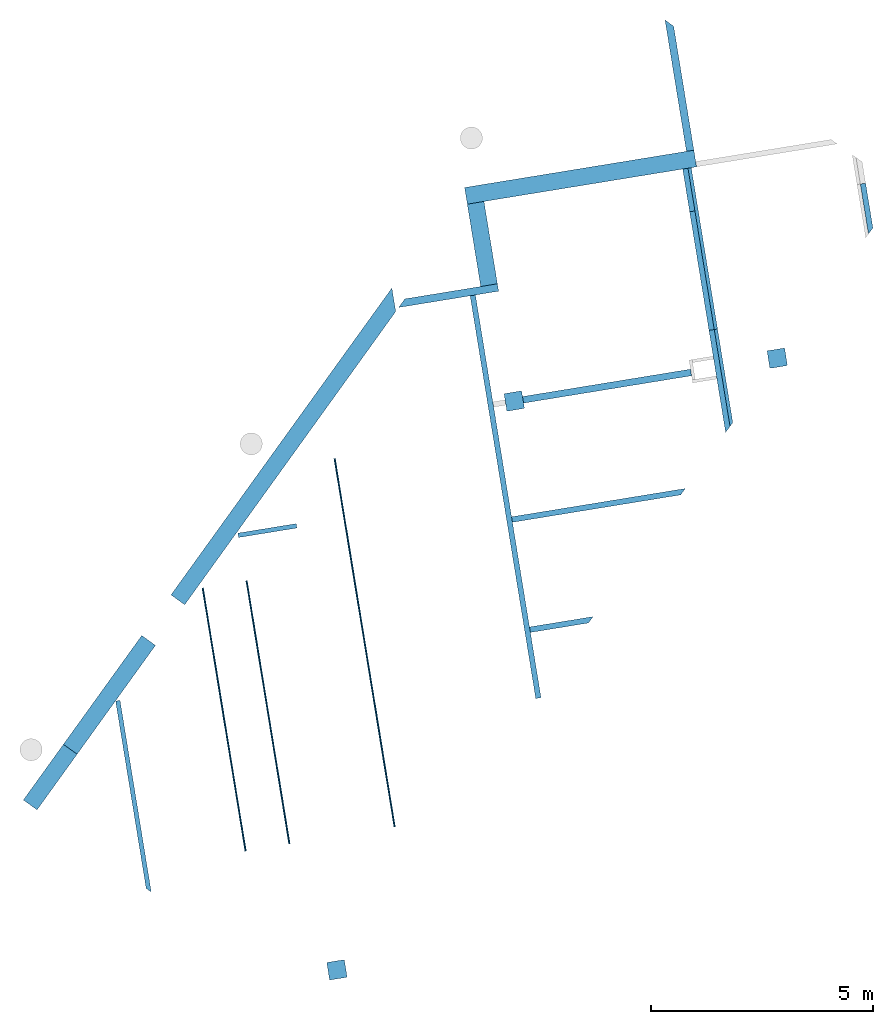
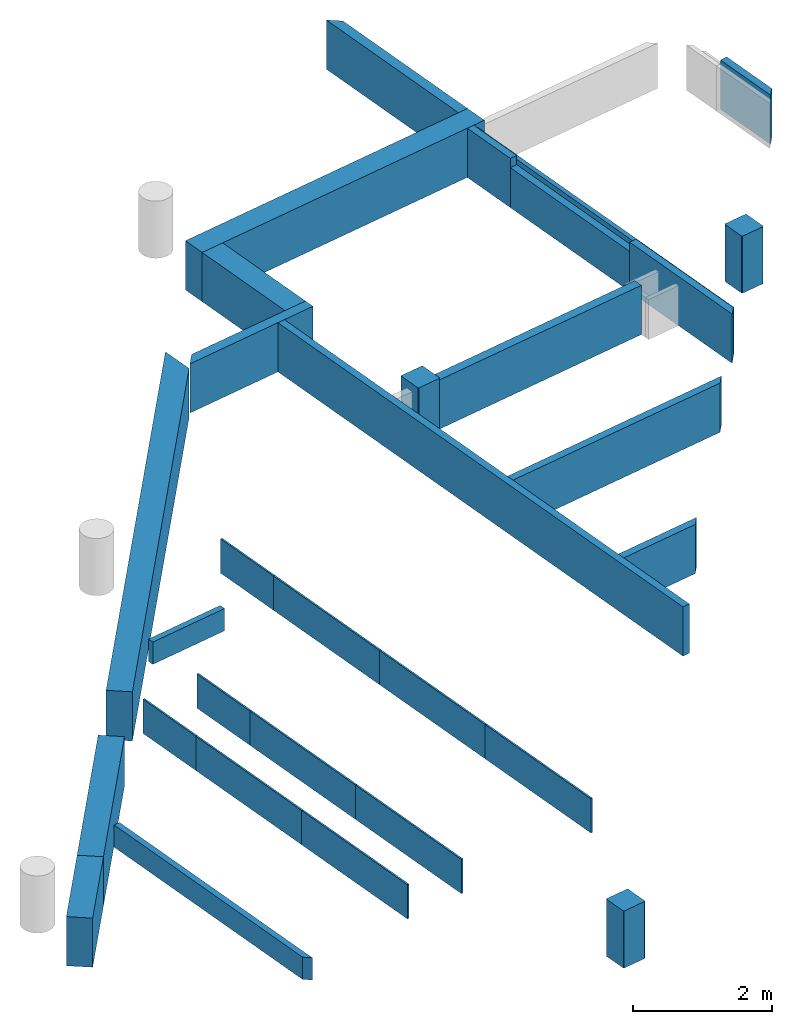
# One storey, part 1 of 2: 29 walls, 3 columns.
"""IFC2X3 building model written with IfcOpenShell, lengths in millimetres."""

from ifc_helpers import new_model, entity, si_unit, converted_unit, derived_unit, direction, frame, frame_2d, origin, origin_with_axes, place, context, subcontext, project, spatial, rectangle, extrude, faceted_brep, material, layer, layer_set, layer_usage, type_object, element, save


model = new_model("IFC2X3")

# Units and contexts
model_context = context("Model", 3, precision=0.01, world=origin(), true_north=direction((6.12323399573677e-17, 1.0)))
plan_context = context("Plan", 3, precision=1e-05, world=origin_with_axes())
body_context = subcontext(model_context, "Body", "Model", "MODEL_VIEW")
ifc_project = project(units=[converted_unit("PLANEANGLEUNIT", "DEGREE", entity("IfcPositiveLengthMeasure", 0.0174532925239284), si_unit("PLANEANGLEUNIT", "RADIAN"), dimensions=[0, 0, 0, 0, 0, 0, 0]), si_unit("AREAUNIT", "SQUARE_METRE"), si_unit("LENGTHUNIT", "METRE", prefix="MILLI"), si_unit("MASSUNIT", "GRAM", prefix="KILO"), si_unit("POWERUNIT", "WATT"), si_unit("PRESSUREUNIT", "PASCAL", prefix="KILO"), si_unit("FORCEUNIT", "NEWTON", prefix="KILO"), si_unit("ELECTRICVOLTAGEUNIT", "VOLT"), si_unit("ELECTRICCURRENTUNIT", "AMPERE"), si_unit("THERMODYNAMICTEMPERATUREUNIT", "DEGREE_CELSIUS"), si_unit("TIMEUNIT", "SECOND"), si_unit("VOLUMEUNIT", "CUBIC_METRE"), derived_unit("LINEARVELOCITYUNIT", [(si_unit("LENGTHUNIT", "METRE"), 1), (si_unit("TIMEUNIT", "SECOND"), -1)]), derived_unit("VOLUMETRICFLOWRATEUNIT", [(si_unit("VOLUMEUNIT", "CUBIC_METRE"), 1), (si_unit("TIMEUNIT", "SECOND"), -1)]), derived_unit("THERMALTRANSMITTANCEUNIT", [(si_unit("POWERUNIT", "WATT"), 1), (si_unit("THERMODYNAMICTEMPERATUREUNIT", "KELVIN"), -1), (si_unit("AREAUNIT", "SQUARE_METRE"), -1)]), derived_unit("SOUNDPRESSUREUNIT", [(si_unit("PRESSUREUNIT", "PASCAL"), 1)])], contexts=[model_context, plan_context])

# Site, building, storey
site_placement = place(None, frame((-305029.896016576, -232111.759730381, 0.0), z_axis=(0.0, 0.0, 1.0), x_axis=(-0.160806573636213, 0.986985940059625, 0.0)))
site = spatial("IfcSite", under=ifc_project, at=site_placement, Name="Default", CompositionType="ELEMENT")
building_placement = place(site_placement, frame((0.0, 0.0, 0.0), z_axis=(0.0, 0.0, 1.0), x_axis=(1.0, -2.77555756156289e-17, 0.0)))
building = spatial("IfcBuilding", under=site, at=building_placement, Name="br001-a-200-1-0001", CompositionType="ELEMENT")
storey_placement = place(building_placement, frame((0.0, 0.0, 51360.0000000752), z_axis=(0.0, 0.0, 1.0), x_axis=(1.0, -2.77555756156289e-17, 0.0)))
storey = spatial("IfcBuildingStorey", under=building, at=storey_placement, Name="H01-Nivå D+0,36", CompositionType="ELEMENT", Elevation=51360.0000000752)

# Columns
ifc_material_1 = material(Name="_NSW Betong")
column_type = type_object("IfcColumnType", Name="NSW Søyle - Betong rektangulær:400 x 400 mm", PredefinedType="COLUMN", material=ifc_material_1)
for number, where, z_axis, x_axis, name in (
    (1, (1184578.59858442, -686666.378367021, -51360.0000000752), (0.0, 0.0, 1.0), (1.0, -2.77555756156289e-17, 0.0), "NSW Søyle - Betong rektangulær:400 x 400 mm"),
    (2, (1172578.59858442, -680666.378367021, -51360.0000000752), (0.0, 0.0, 1.0), (1.0, -2.77555756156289e-17, 0.0), "NSW Søyle - Betong rektangulær:400 x 400 mm"),
    (3, (1184578.59858442, -692666.378367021, -51360.0000000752), (0.0, 0.0, 1.0), (1.0, -2.77555756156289e-17, 0.0), "NSW Søyle - Betong rektangulær:400 x 400 mm"),
):
    element("IfcColumn", number, at=place(storey_placement, frame(where, z_axis=z_axis, x_axis=x_axis)), inside=storey, type_object=column_type, Name=name, ObjectType="NSW Søyle - Betong rektangulær:400 x 400 mm", context=body_context, shape_type="Brep", body=[
        faceted_brep([(290.000000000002, -300.0, 54500.0), (-89.9999999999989, -300.0, 54500.0), (-89.9999999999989, -300.0, 55500.0), (290.000000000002, -300.0, 55500.0), (300.0, -290.0, 54500.0), (300.0, -290.0, 55500.0), (300.0, 90.0000000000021, 54500.0), (300.0, 90.0000000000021, 55500.0), (290.0, 100.0, 54500.0), (290.0, 100.0, 55500.0), (-90.0000000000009, 100.0, 54500.0), (-90.0000000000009, 100.0, 55500.0), (-100.000000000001, 89.9999999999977, 54500.0), (-100.000000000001, 89.9999999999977, 55500.0), (-100.000000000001, -290.0, 54500.0), (-100.000000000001, -290.0, 55500.0)], [[[0, 1, 2, 3]], [[4, 0, 3, 5]], [[6, 4, 5, 7]], [[8, 6, 7, 9]], [[10, 8, 9, 11]], [[12, 10, 11, 13]], [[14, 12, 13, 15]], [[1, 14, 15, 2]], [[3, 2, 15, 13, 11, 9, 7, 5]], [[4, 6, 8, 10, 12, 14, 1, 0]]], orient=[[False], [False], [False], [False], [False], [False], [False], [False], [False], [False]]),
    ])

# Walls
ifc_material_2 = material(Name="_NSW Standard")
ifc_layer_1 = layer(ifc_material_2, 120.0)
ifc_layer_set_1 = layer_set([ifc_layer_1], Name="Basic Wall:A242 - Standard 120")
wall_type_1 = type_object("IfcWallType", Name="Basic Wall:A242 - Standard 120", PredefinedType="STANDARD", material=ifc_layer_set_1)
wall_1_placement = place(storey_placement, frame((1188248.59858442, -691410.378367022, -7.5167918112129e-08), z_axis=(0.0, 0.0, 1.0), x_axis=(1.0, -2.77555756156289e-17, 0.0)))
element("IfcWall", 4, at=wall_1_placement, inside=storey, type_object=wall_type_1, Name="Basic Wall:A242 - Standard 120", ObjectType="Basic Wall:A242 - Standard 120", context=body_context, shape_type="Brep", body=[
    faceted_brep([(975.000000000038, 60.0000000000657, 3140.00000000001), (975.000000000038, -60.0000000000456, 3140.00000000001), (975.000000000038, -60.0000000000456, 4002.00000000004), (975.000000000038, 60.0000000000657, 4002.00000000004), (1.13686837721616e-13, 60.0000000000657, 3140.00000000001), (1.13686837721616e-13, 60.0000000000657, 4002.00000000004), (1.13686837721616e-13, -60.0000000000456, 3140.00000000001), (1.13686837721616e-13, -60.0000000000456, 4002.00000000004)], [[[0, 1, 2, 3]], [[4, 0, 3, 5]], [[6, 4, 5, 7]], [[1, 6, 7, 2]], [[3, 2, 7, 5]], [[4, 6, 1, 0]]], orient=[[False], [False], [False], [False], [False], [False]]),
])
wall_2_placement = place(storey_placement, frame((1188248.59858442, -695303.878367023, -7.5167918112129e-08), z_axis=(0.0, 0.0, 1.0), x_axis=(-1.0, 2.77555756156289e-17, 0.0)))
element("IfcWall", 5, at=wall_2_placement, inside=storey, type_object=wall_type_1, Name="Basic Wall:A242 - Standard 120", ObjectType="Basic Wall:A242 - Standard 120", context=body_context, shape_type="Brep", body=[
    faceted_brep([(0.0, 60.000000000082, 3140.00000000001), (1020.59611006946, 60.0000000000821, 3140.00000000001), (1020.59611006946, 60.000000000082, 4002.00000000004), (0.0, 60.000000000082, 4002.00000000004), (0.0, -60.0000000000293, 3140.00000000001), (0.0, -60.0000000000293, 4002.00000000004), (1140.59611006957, -60.0000000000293, 4002.00000000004), (1140.59611006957, -60.0000000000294, 3140.00000000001)], [[[0, 1, 2, 3]], [[4, 0, 3, 5]], [[6, 7, 4, 5]], [[2, 6, 5, 3]], [[7, 6, 2, 1]], [[1, 0, 4, 7]]], orient=[[False], [False], [False], [False], [False], [False]]),
])
wall_3_placement = place(storey_placement, frame((1177988.59858442, -686227.378367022, -7.5167918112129e-08), z_axis=(0.0, 0.0, 1.0), x_axis=(1.0, -2.77555756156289e-17, 0.0)))
element("IfcWall", 6, at=wall_3_placement, inside=storey, type_object=wall_type_1, Name="Basic Wall:A242 - Standard 120", ObjectType="Basic Wall:A242 - Standard 120", context=body_context, shape_type="Brep", body=[
    faceted_brep([(9187.46435344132, 60.0000000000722, 3140.00000000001), (9187.46435344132, -60.0000000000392, 3140.00000000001), (9187.46435344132, -60.0000000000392, 4002.00000000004), (9187.46435344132, 60.0000000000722, 4002.00000000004), (0.0, 60.0000000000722, 3140.00000000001), (0.0, 60.0000000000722, 4002.00000000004), (0.0, -60.0000000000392, 3140.00000000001), (0.0, -60.0000000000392, 4002.00000000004)], [[[0, 1, 2, 3]], [[4, 0, 3, 5]], [[6, 4, 5, 7]], [[1, 6, 7, 2]], [[3, 2, 7, 5]], [[4, 6, 1, 0]]], orient=[[False], [False], [False], [False], [False], [False]]),
])
wall_4_placement = place(storey_placement, frame((1179602.09858442, -691410.378367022, -7.5167918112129e-08), z_axis=(0.0, 0.0, 1.0), x_axis=(1.0, -2.77555756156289e-17, 0.0)))
element("IfcWall", 7, at=wall_4_placement, inside=storey, type_object=wall_type_1, Name="Basic Wall:A242 - Standard 120", ObjectType="Basic Wall:A242 - Standard 120", context=body_context, shape_type="Brep", body=[
    faceted_brep([(5941.50000000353, 60.0000000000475, 3140.00000000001), (5941.50000000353, -60.0000000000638, 3140.00000000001), (5941.50000000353, -60.0000000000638, 4002.00000000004), (5941.50000000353, 60.0000000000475, 4002.00000000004), (3612.4038899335, 60.0000000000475, 4002.00000000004), (3612.4038899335, 60.0000000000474, 3140.00000000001), (3732.40388993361, -60.0000000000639, 3140.00000000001), (3732.40388993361, -60.0000000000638, 4002.00000000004)], [[[0, 1, 2, 3]], [[4, 5, 0, 3]], [[1, 6, 7, 2]], [[7, 4, 3, 2]], [[5, 4, 7, 6]], [[6, 1, 0, 5]]], orient=[[False], [False], [False], [False], [False], [False]]),
])
ifc_layer_2 = layer(ifc_material_2, 150.0)
ifc_layer_set_2 = layer_set([ifc_layer_2], Name="Basic Wall:A242 - Standard 150")
wall_type_2 = type_object("IfcWallType", Name="Basic Wall:A242 - Standard 150", PredefinedType="STANDARD", material=ifc_layer_set_2)
wall_5_placement = place(storey_placement, frame((1184673.59858442, -686966.378367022, -7.5167918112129e-08), z_axis=(0.0, 0.0, 1.0), x_axis=(-2.77555756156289e-17, -1.0, 0.0)))
element("IfcWall", 8, at=wall_5_placement, inside=storey, type_object=wall_type_2, Name="Basic Wall:A242 - Standard 150", ObjectType="Basic Wall:A242 - Standard 150", context=body_context, shape_type="Brep", body=[
    faceted_brep([(3832.4999999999, 75.0000000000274, 3140.00000000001), (3832.4999999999, -75.0000000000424, 3140.00000000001), (3832.4999999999, -75.0000000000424, 4002.00000000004), (3832.4999999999, 75.0000000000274, 4002.00000000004), (0.0, 75.0000000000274, 3140.00000000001), (0.0, 75.0000000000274, 4002.00000000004), (0.0, -75.0000000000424, 3140.00000000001), (0.0, -75.0000000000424, 4002.00000000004)], [[[0, 1, 2, 3]], [[4, 0, 3, 5]], [[6, 4, 5, 7]], [[1, 6, 7, 2]], [[3, 2, 7, 5]], [[4, 6, 1, 0]]], orient=[[False], [False], [False], [False], [False], [False]]),
])
ifc_layer_3 = layer(ifc_material_2, 125.0)
ifc_layer_set_3 = layer_set([ifc_layer_3], Name="Basic Wall:A242 - Standard 125")
wall_type_3 = type_object("IfcWallType", Name="Basic Wall:A242 - Standard 125", PredefinedType="STANDARD", material=ifc_layer_set_3)
wall_6_placement = place(storey_placement, frame((1182052.72288033, -686287.378367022, -6.95290509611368e-08), z_axis=(0.0, 0.0, 1.0), x_axis=(-2.77555756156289e-17, -1.0, 0.0)))
element("IfcWall", 9, at=wall_6_placement, inside=storey, type_object=wall_type_3, Name="Basic Wall:A242 - Standard 125", ObjectType="Basic Wall:A242 - Standard 125", context=body_context, shape_type="Brep", body=[
    faceted_brep([(0.0, 62.5000000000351, 3139.99999999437), (3963.72040597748, 62.5000000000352, 3139.99999999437), (3963.72040597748, 62.5000000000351, 4001.99999999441), (0.0, 62.5000000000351, 4001.99999999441), (0.0, -62.5000000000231, 3139.99999999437), (0.0, -62.5000000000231, 4001.99999999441), (3838.72040597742, -62.5000000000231, 4001.99999999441), (3838.72040597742, -62.500000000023, 3139.99999999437)], [[[0, 1, 2, 3]], [[4, 0, 3, 5]], [[6, 7, 4, 5]], [[2, 6, 5, 3]], [[7, 6, 2, 1]], [[1, 0, 4, 7]]], orient=[[False], [False], [False], [False], [False], [False]]),
])
wall_7_placement = place(storey_placement, frame((1179539.59858442, -695243.878367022, -7.5167918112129e-08), z_axis=(0.0, 0.0, 1.0), x_axis=(2.77555756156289e-17, 1.0, 0.0)))
element("IfcWall", 10, at=wall_7_placement, inside=storey, type_object=wall_type_3, Name="Basic Wall:A242 - Standard 125", ObjectType="Basic Wall:A242 - Standard 125", context=body_context, shape_type="Brep", body=[
    faceted_brep([(8956.50000000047, 62.5000000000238, 3140.00000000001), (8956.50000000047, -62.5000000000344, 3140.00000000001), (8956.50000000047, -62.5000000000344, 4002.00000000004), (8956.50000000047, 62.5000000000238, 4002.00000000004), (7630.90388993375, 62.5000000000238, 4002.00000000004), (7630.90388993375, 62.5000000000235, 3140.00000000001), (7505.90388993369, -62.5000000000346, 3140.00000000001), (7505.90388993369, -62.5000000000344, 4002.00000000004)], [[[0, 1, 2, 3]], [[4, 5, 0, 3]], [[1, 6, 7, 2]], [[7, 4, 3, 2]], [[5, 4, 7, 6]], [[6, 1, 0, 5]]], orient=[[False], [False], [False], [False], [False], [False]]),
])
ifc_material_3 = material(Name="Flesland - Finishes - Exterior - GF")
ifc_layer_4 = layer(ifc_material_3, 380.0)
ifc_layer_set_4 = layer_set([ifc_layer_4], Name="Basic Wall:NSW Utvendig - Standard 380 GF")
wall_type_4 = type_object("IfcWallType", Name="Basic Wall:NSW Utvendig - Standard 380 GF", PredefinedType="STANDARD", material=ifc_layer_set_4)
wall_8_placement = place(storey_placement, frame((1189413.59858442, -686436.378367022, -7.5167918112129e-08), z_axis=(0.0, 0.0, 1.0), x_axis=(-2.77555756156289e-17, -1.0, 0.0)))
element("IfcWall", 11, at=wall_8_placement, inside=storey, type_object=wall_type_4, Name="Basic Wall:NSW Utvendig - Standard 380 GF", ObjectType="Basic Wall:NSW Utvendig - Standard 380 GF", context=body_context, shape_type="Brep", body=[
    faceted_brep([(5229.99999999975, 190.00000000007, 3140.00000000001), (5229.99999999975, -190.000000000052, 3140.00000000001), (5229.99999999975, -190.000000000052, 4002.00000000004), (5229.99999999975, 190.00000000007, 4002.00000000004), (0.0, 190.00000000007, 3140.00000000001), (0.0, 190.00000000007, 4002.00000000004), (0.0, -190.000000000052, 3140.00000000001), (0.0, -190.000000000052, 4002.00000000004)], [[[0, 1, 2, 3]], [[4, 0, 3, 5]], [[6, 4, 5, 7]], [[1, 6, 7, 2]], [[3, 2, 7, 5]], [[4, 6, 1, 0]]], orient=[[False], [False], [False], [False], [False], [False]]),
])
wall_9_placement = place(storey_placement, frame((1189223.59858442, -686626.378367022, -7.5167918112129e-08), z_axis=(0.0, 0.0, 1.0), x_axis=(-1.0, 2.77555756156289e-17, 0.0)))
element("IfcWall", 12, at=wall_9_placement, inside=storey, type_object=wall_type_4, Name="Basic Wall:NSW Utvendig - Standard 380 GF", ObjectType="Basic Wall:NSW Utvendig - Standard 380 GF", context=body_context, shape_type="Brep", body=[
    faceted_brep([(1878.53564656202, 190.000000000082, 3140.00000000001), (1878.53564656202, -190.00000000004, 3140.00000000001), (1878.53564656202, -190.00000000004, 4002.00000000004), (1878.53564656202, 190.000000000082, 4002.00000000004), (-1.13686837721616e-13, 190.000000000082, 3140.00000000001), (-1.13686837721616e-13, 190.000000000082, 4002.00000000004), (-1.13686837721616e-13, -190.00000000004, 3140.00000000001), (-1.13686837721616e-13, -190.00000000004, 4002.00000000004)], [[[0, 1, 2, 3]], [[4, 0, 3, 5]], [[6, 4, 5, 7]], [[1, 6, 7, 2]], [[3, 2, 7, 5]], [[4, 6, 1, 0]]], orient=[[False], [False], [False], [False], [False], [False]]),
])
wall_10_placement = place(storey_placement, frame((1187498.85724356, -684590.728655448, -7.5167918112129e-08), z_axis=(0.0, 0.0, 1.0), x_axis=(-0.707106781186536, 0.707106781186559, 0.0)))
element("IfcWall", 13, at=wall_10_placement, inside=storey, type_object=wall_type_4, Name="Basic Wall:NSW Utvendig - Standard 380 GF", ObjectType="Basic Wall:NSW Utvendig - Standard 380 GF", context=body_context, shape_type="Brep", body=[
    faceted_brep([(0.0, -190.0, 3140.00000000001), (380.0, 190.0, 3140.00000000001), (380.0, 190.0, 4002.00000000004), (0.0, -190.0, 4002.00000000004), (8513.7294193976, -190.0, 3140.00000000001), (8513.7294193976, -190.0, 4002.00000000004), (8513.72941939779, 190.0, 3140.00000000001), (8513.72941939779, 190.0, 4002.00000000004)], [[[0, 1, 2, 3]], [[4, 0, 3, 5]], [[6, 4, 5, 7]], [[1, 6, 7, 2]], [[3, 2, 7, 5]], [[4, 6, 1, 0]]], orient=[[False], [False], [False], [False], [False], [False]]),
])
wall_11_placement = place(storey_placement, frame((1178546.53797681, -675638.4093887, -7.5167918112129e-08), z_axis=(0.0, 0.0, 1.0), x_axis=(-0.707106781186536, 0.707106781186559, 0.0)))
element("IfcWall", 14, at=wall_11_placement, inside=storey, type_object=wall_type_4, Name="Basic Wall:NSW Utvendig - Standard 380 GF", ObjectType="Basic Wall:NSW Utvendig - Standard 380 GF", context=body_context, shape_type="Brep", body=[
    faceted_brep([(0.0, 190.000000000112, 3140.00000000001), (1543.80153489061, 190.000000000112, 3140.00000000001), (1543.80153489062, 190.000000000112, 4002.00000000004), (0.0, 190.000000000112, 4002.00000000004), (0.0, -190.000000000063, 3140.00000000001), (0.0, -190.000000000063, 4002.00000000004), (1543.80153489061, -190.000000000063, 4002.00000000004), (1543.80153489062, -190.000000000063, 3140.00000000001)], [[[0, 1, 2, 3]], [[4, 0, 3, 5]], [[6, 7, 4, 5]], [[2, 6, 5, 3]], [[7, 6, 2, 1]], [[1, 0, 4, 7]]], orient=[[False], [False], [False], [False], [False], [False]]),
])
wall_12_placement = place(storey_placement, frame((1180682.00045599, -677773.871867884, -7.5167918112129e-08), z_axis=(0.0, 0.0, 1.0), x_axis=(-0.707106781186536, 0.707106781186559, 0.0)))
element("IfcWall", 15, at=wall_12_placement, inside=storey, type_object=wall_type_4, Name="Basic Wall:NSW Utvendig - Standard 380 GF", ObjectType="Basic Wall:NSW Utvendig - Standard 380 GF", context=body_context, shape_type="Brep", body=[
    faceted_brep([(3020.00000000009, 190.000000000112, 3140.00000000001), (3020.00000000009, -190.000000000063, 3140.00000000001), (3020.00000000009, -190.000000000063, 4002.00000000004), (3020.00000000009, 190.000000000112, 4002.00000000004), (0.0, 190.000000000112, 3140.00000000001), (0.0, 190.000000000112, 4002.00000000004), (0.0, -190.000000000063, 3140.00000000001), (0.0, -190.000000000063, 4002.00000000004)], [[[0, 1, 2, 3]], [[4, 0, 3, 5]], [[6, 4, 5, 7]], [[1, 6, 7, 2]], [[3, 2, 7, 5]], [[4, 6, 1, 0]]], orient=[[False], [False], [False], [False], [False], [False]]),
])
ifc_layer_5 = layer(ifc_material_3, 169.0)
ifc_layer_set_5 = layer_set([ifc_layer_5], Name="Basic Wall:NSW Utvendig - Standard 169 GF")
wall_type_5 = type_object("IfcWallType", Name="Basic Wall:NSW Utvendig - Standard 169 GF", PredefinedType="STANDARD", material=ifc_layer_set_5)
wall_13_placement = place(storey_placement, frame((1201028.59858442, -691581.878367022, -7.5167918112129e-08), z_axis=(0.0, 0.0, 1.0), x_axis=(-1.0, 2.77555756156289e-17, 0.0)))
element("IfcWall", 16, at=wall_13_placement, inside=storey, type_object=wall_type_5, Name="Basic Wall:NSW Utvendig - Standard 169 GF", ObjectType="Basic Wall:NSW Utvendig - Standard 169 GF", context=body_context, shape_type="Brep", body=[
    faceted_brep([(11424.9999999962, 84.4999999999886, 3140.00000000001), (11424.9999999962, -84.4999999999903, 3140.00000000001), (11424.9999999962, -84.4999999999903, 4002.00000000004), (11424.9999999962, 84.4999999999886, 4002.00000000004), (8596.78850335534, 84.4999999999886, 4002.00000000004), (8596.78850335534, 84.4999999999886, 3140.00000000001), (8427.78850335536, -84.4999999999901, 3140.00000000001), (8427.78850335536, -84.4999999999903, 4002.00000000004)], [[[0, 1, 2, 3]], [[4, 5, 0, 3]], [[1, 6, 7, 2]], [[7, 4, 3, 2]], [[5, 4, 7, 6]], [[6, 1, 0, 5]]], orient=[[False], [False], [False], [False], [False], [False]]),
])
wall_14_placement = place(storey_placement, frame((1187260.56293786, -686816.378367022, -7.5167918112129e-08), z_axis=(0.0, 0.0, 1.0), x_axis=(2.77555756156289e-17, 1.0, 0.0)))
element("IfcWall", 17, at=wall_14_placement, inside=storey, type_object=wall_type_5, Name="Basic Wall:NSW Utvendig - Standard 169 GF", ObjectType="Basic Wall:NSW Utvendig - Standard 169 GF", context=body_context, shape_type="Brep", body=[
    faceted_brep([(2110.74344042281, -84.5, 3140.00000000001), (0.0, -84.5, 3140.00000000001), (0.0, -84.5, 4002.0), (2110.74344042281, -84.5, 4002.0), (0.0, 84.5, 3140.00000000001), (2279.74344042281, 84.5, 3140.00000000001), (2279.74344042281, 84.5, 4002.0), (0.0, 84.5, 4002.0), (529.0, 84.5, 4002.0), (649.0, 84.5, 4002.0), (380.0, -84.5, 4002.0)], [[[0, 1, 2, 3]], [[4, 5, 6, 7]], [[1, 4, 7, 2]], [[5, 0, 3, 6]], [[7, 8, 9, 6, 3, 10, 2]], [[5, 4, 1, 0]]], orient=[[False], [False], [False], [False], [False], [False]]),
])
ifc_material_4 = material(Name="_Flesland Glass")
ifc_layer_6 = layer(ifc_material_4, 100.0)
ifc_layer_set_6 = layer_set([ifc_layer_6], Name="Basic Wall:Glassvegg")
wall_type_6 = type_object("IfcWallType", Name="Basic Wall:Glassvegg", PredefinedType="STANDARD", material=ifc_layer_set_6)
wall_15_placement = place(storey_placement, frame((1171753.59858442, -676871.378367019, 0.0), z_axis=(0.0, 0.0, 1.0), x_axis=(1.0, -2.77555756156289e-17, 0.0)))
element("IfcWall", 18, at=wall_15_placement, inside=storey, type_object=wall_type_6, Name="Basic Wall:Glassvegg", ObjectType="Basic Wall:Glassvegg", context=body_context, shape_type="Brep", body=[
    faceted_brep([(7700.00000000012, 50.0000000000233, 3139.99999992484), (7700.00000000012, -50.0000000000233, 3139.99999992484), (7700.00000000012, -50.0000000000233, 3529.99999999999), (7700.00000000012, 50.0000000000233, 3529.99999999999), (3426.70534582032, 50.0000000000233, 3529.99999999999), (3426.70534582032, 50.0000000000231, 3139.99999992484), (3326.70534582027, -50.0000000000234, 3139.99999992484), (3326.70534582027, -50.0000000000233, 3529.99999999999)], [[[0, 1, 2, 3]], [[4, 5, 0, 3]], [[1, 6, 7, 2]], [[7, 4, 3, 2]], [[5, 4, 7, 6]], [[6, 1, 0, 5]]], orient=[[False], [False], [False], [False], [False], [False]]),
])
wall_16_placement = place(storey_placement, frame((1182693.59858442, -680146.140572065, 0.0), z_axis=(0.0, 0.0, 1.0), x_axis=(-2.77555756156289e-17, -1.0, 0.0)))
element("IfcWall", 19, at=wall_16_placement, inside=storey, type_object=wall_type_6, Name="Basic Wall:Glassvegg", ObjectType="Basic Wall:Glassvegg", context=body_context, shape_type="Brep", body=[
    faceted_brep([(1329.99999999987, 50.0000000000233, 3139.99999992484), (1329.99999999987, -50.0000000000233, 3139.99999992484), (1329.99999999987, -50.0000000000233, 3529.99999999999), (1329.99999999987, 50.0000000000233, 3529.99999999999), (0.0, 50.0000000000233, 3139.99999992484), (0.0, 50.0000000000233, 3529.99999999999), (0.0, -50.0000000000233, 3139.99999992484), (0.0, -50.0000000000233, 3529.99999999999)], [[[0, 1, 2, 3]], [[4, 0, 3, 5]], [[6, 4, 5, 7]], [[1, 6, 7, 2]], [[3, 2, 7, 5]], [[4, 6, 1, 0]]], orient=[[False], [False], [False], [False], [False], [False]]),
])
ifc_layer_7 = layer(ifc_material_2, 120.0)
ifc_layer_set_7 = layer_set([ifc_layer_7], Name="Basic Wall:Ny IV R'w48 EI60 dB")
wall_type_7 = type_object("IfcWallType", Name="Basic Wall:Ny IV R'w48 EI60 dB", PredefinedType="STANDARD", material=ifc_layer_set_7)
wall_17_placement = place(storey_placement, frame((1185543.59858442, -691410.378367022, 0.0), z_axis=(0.0, 0.0, 1.0), x_axis=(1.0, -2.77555756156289e-17, 0.0)))
element("IfcWall", 20, at=wall_17_placement, inside=storey, type_object=wall_type_7, Name="Basic Wall:Ny IV R'w48 EI60 dB", ObjectType="Basic Wall:Ny IV R'w48 EI60 dB", context=body_context, shape_type="Brep", body=[
    faceted_brep([(2704.99999999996, 60.0000000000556, 3139.99999992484), (2704.99999999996, -60.0000000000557, 3139.99999992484), (2704.99999999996, -60.0000000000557, 3839.99999992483), (2704.99999999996, 60.0000000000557, 3839.99999992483), (0.0, 60.0000000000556, 3139.99999992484), (0.0, 60.0000000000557, 3839.99999992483), (0.0, -60.0000000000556, 3139.99999992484), (0.0, -60.0000000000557, 3839.99999992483)], [[[0, 1, 2, 3]], [[4, 0, 3, 5]], [[6, 4, 5, 7]], [[1, 6, 7, 2]], [[3, 2, 7, 5]], [[4, 6, 1, 0]]], orient=[[False], [False], [False], [False], [False], [False]]),
])
ifc_material_5 = material(Name="Lyddemping")
ifc_layer_8 = layer(ifc_material_5, 30.0)
ifc_layer_set_8 = layer_set([ifc_layer_8], Name="Basic Wall:Baffel Lyddemping")
ifc_layer_usage_1 = layer_usage(ifc_layer_set_8, "AXIS2", "POSITIVE", -15.0)
wall_type_8 = type_object("IfcWallType", Name="Basic Wall:Baffel Lyddemping", PredefinedType="STANDARD", material=ifc_layer_set_8)
wall_18_placement = place(storey_placement, frame((1175650.57724099, -679166.365014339, 2910.0), z_axis=(0.0, 0.0, 1.0), x_axis=(1.0, -2.77555756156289e-17, 0.0)))
element("IfcWallStandardCase", 21, at=wall_18_placement, inside=storey, type_object=wall_type_8, material=ifc_layer_usage_1, Name="Basic Wall:Baffel Lyddemping", ObjectType="Basic Wall:Baffel Lyddemping", context=body_context, shape_type="SweptSolid", body=[
    extrude(rectangle(XDim=2400.00000000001, YDim=29.9999999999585, at=frame_2d((1200.0, 0.0), x_axis=(-1.0, 0.0))), origin(), (0.0, 0.0, 1.0), 600.000000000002),
])
ifc_layer_usage_2 = layer_usage(ifc_layer_set_8, "AXIS2", "POSITIVE", -15.0)
wall_19_placement = place(storey_placement, frame((1175650.57724099, -680166.365014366, 2910.0), z_axis=(0.0, 0.0, 1.0), x_axis=(1.0, -2.77555756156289e-17, 0.0)))
element("IfcWallStandardCase", 22, at=wall_19_placement, inside=storey, type_object=wall_type_8, material=ifc_layer_usage_2, Name="Basic Wall:Baffel Lyddemping", ObjectType="Basic Wall:Baffel Lyddemping", context=body_context, shape_type="SweptSolid", body=[
    extrude(rectangle(XDim=2400.00000000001, YDim=29.9999999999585, at=frame_2d((1200.0, 0.0), x_axis=(-1.0, 0.0))), origin(), (0.0, 0.0, 1.0), 600.000000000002),
])
ifc_layer_usage_3 = layer_usage(ifc_layer_set_8, "AXIS2", "POSITIVE", -15.0)
wall_20_placement = place(storey_placement, frame((1175650.57724099, -682566.365014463, 2910.0), z_axis=(0.0, 0.0, 1.0), x_axis=(1.0, -2.77555756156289e-17, 0.0)))
element("IfcWallStandardCase", 23, at=wall_20_placement, inside=storey, type_object=wall_type_8, material=ifc_layer_usage_3, Name="Basic Wall:Baffel Lyddemping", ObjectType="Basic Wall:Baffel Lyddemping", context=body_context, shape_type="SweptSolid", body=[
    extrude(rectangle(XDim=2400.00000000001, YDim=29.9999999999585, at=frame_2d((1200.0, 0.0), x_axis=(-1.0, 0.0))), origin(), (0.0, 0.0, 1.0), 600.000000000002),
])
ifc_layer_usage_4 = layer_usage(ifc_layer_set_8, "AXIS2", "POSITIVE", -15.0)
wall_21_placement = place(storey_placement, frame((1178050.57724099, -679166.365014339, 2910.0), z_axis=(0.0, 0.0, 1.0), x_axis=(1.0, -2.77555756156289e-17, 0.0)))
element("IfcWallStandardCase", 24, at=wall_21_placement, inside=storey, type_object=wall_type_8, material=ifc_layer_usage_4, Name="Basic Wall:Baffel Lyddemping", ObjectType="Basic Wall:Baffel Lyddemping", context=body_context, shape_type="SweptSolid", body=[
    extrude(rectangle(XDim=2400.00000000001, YDim=29.9999999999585, at=frame_2d((1200.0, 0.0), x_axis=(-1.0, 0.0))), origin(), (0.0, 0.0, 1.0), 600.000000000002),
])
ifc_layer_usage_5 = layer_usage(ifc_layer_set_8, "AXIS2", "POSITIVE", -15.0)
wall_22_placement = place(storey_placement, frame((1178050.57724099, -680166.365014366, 2910.0), z_axis=(0.0, 0.0, 1.0), x_axis=(1.0, -2.77555756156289e-17, 0.0)))
element("IfcWallStandardCase", 25, at=wall_22_placement, inside=storey, type_object=wall_type_8, material=ifc_layer_usage_5, Name="Basic Wall:Baffel Lyddemping", ObjectType="Basic Wall:Baffel Lyddemping", context=body_context, shape_type="SweptSolid", body=[
    extrude(rectangle(XDim=2400.00000000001, YDim=29.9999999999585, at=frame_2d((1200.0, 0.0), x_axis=(-1.0, 0.0))), origin(), (0.0, 0.0, 1.0), 600.000000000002),
])
ifc_layer_usage_6 = layer_usage(ifc_layer_set_8, "AXIS2", "POSITIVE", -15.0)
wall_23_placement = place(storey_placement, frame((1178050.57724099, -682566.365014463, 2910.0), z_axis=(0.0, 0.0, 1.0), x_axis=(1.0, -2.77555756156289e-17, 0.0)))
element("IfcWallStandardCase", 26, at=wall_23_placement, inside=storey, type_object=wall_type_8, material=ifc_layer_usage_6, Name="Basic Wall:Baffel Lyddemping", ObjectType="Basic Wall:Baffel Lyddemping", context=body_context, shape_type="SweptSolid", body=[
    extrude(rectangle(XDim=2400.00000000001, YDim=29.9999999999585, at=frame_2d((1200.0, 0.0), x_axis=(-1.0, 0.0))), origin(), (0.0, 0.0, 1.0), 600.000000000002),
])
ifc_layer_usage_7 = layer_usage(ifc_layer_set_8, "AXIS2", "POSITIVE", -15.0)
wall_24_placement = place(storey_placement, frame((1180450.57724099, -679166.365014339, 2910.0), z_axis=(0.0, 0.0, 1.0), x_axis=(1.0, -2.77555756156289e-17, 0.0)))
element("IfcWallStandardCase", 27, at=wall_24_placement, inside=storey, type_object=wall_type_8, material=ifc_layer_usage_7, Name="Basic Wall:Baffel Lyddemping", ObjectType="Basic Wall:Baffel Lyddemping", context=body_context, shape_type="SweptSolid", body=[
    extrude(rectangle(XDim=1200.0, YDim=29.9999999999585, at=frame_2d((600.000000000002, 0.0), x_axis=(-1.0, 0.0))), origin(), (0.0, 0.0, 1.0), 600.000000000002),
])
ifc_layer_usage_8 = layer_usage(ifc_layer_set_8, "AXIS2", "POSITIVE", -15.0)
wall_25_placement = place(storey_placement, frame((1180450.57724099, -680166.365014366, 2910.0), z_axis=(0.0, 0.0, 1.0), x_axis=(1.0, -2.77555756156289e-17, 0.0)))
element("IfcWallStandardCase", 28, at=wall_25_placement, inside=storey, type_object=wall_type_8, material=ifc_layer_usage_8, Name="Basic Wall:Baffel Lyddemping", ObjectType="Basic Wall:Baffel Lyddemping", context=body_context, shape_type="SweptSolid", body=[
    extrude(rectangle(XDim=1200.0, YDim=29.9999999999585, at=frame_2d((600.000000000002, 0.0), x_axis=(-1.0, 0.0))), origin(), (0.0, 0.0, 1.0), 600.000000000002),
])
ifc_layer_usage_9 = layer_usage(ifc_layer_set_8, "AXIS2", "POSITIVE", -15.0)
wall_26_placement = place(storey_placement, frame((1180450.57724099, -682566.365014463, 2910.0), z_axis=(0.0, 0.0, 1.0), x_axis=(1.0, -2.77555756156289e-17, 0.0)))
element("IfcWallStandardCase", 29, at=wall_26_placement, inside=storey, type_object=wall_type_8, material=ifc_layer_usage_9, Name="Basic Wall:Baffel Lyddemping", ObjectType="Basic Wall:Baffel Lyddemping", context=body_context, shape_type="SweptSolid", body=[
    extrude(rectangle(XDim=2400.00000000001, YDim=29.9999999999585, at=frame_2d((1200.0, 0.0), x_axis=(-1.0, 0.0))), origin(), (0.0, 0.0, 1.0), 600.000000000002),
])
ifc_layer_usage_10 = layer_usage(ifc_layer_set_8, "AXIS2", "POSITIVE", -15.0)
wall_27_placement = place(storey_placement, frame((1182850.57724099, -682566.365014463, 2910.0), z_axis=(0.0, 0.0, 1.0), x_axis=(1.0, -2.77555756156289e-17, 0.0)))
element("IfcWallStandardCase", 30, at=wall_27_placement, inside=storey, type_object=wall_type_8, material=ifc_layer_usage_10, Name="Basic Wall:Baffel Lyddemping", ObjectType="Basic Wall:Baffel Lyddemping", context=body_context, shape_type="SweptSolid", body=[
    extrude(rectangle(XDim=1200.0, YDim=29.9999999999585, at=frame_2d((600.000000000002, 0.0), x_axis=(-1.0, 0.0))), origin(), (0.0, 0.0, 1.0), 600.000000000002),
])
ifc_layer_9 = layer(ifc_material_2, 75.0)
ifc_layer_set_9 = layer_set([ifc_layer_9], Name="Basic Wall:Ny IV75 ensidig lydforbedrende tiltak")
wall_type_9 = type_object("IfcWallType", Name="Basic Wall:Ny IV75 ensidig lydforbedrende tiltak", PredefinedType="STANDARD", material=ifc_layer_set_9)
wall_28_placement = place(storey_placement, frame((1182518.59858442, -691507.878367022, 0.0), z_axis=(0.0, 0.0, 1.0), x_axis=(1.0, -2.77555756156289e-17, 0.0)))
element("IfcWall", 31, at=wall_28_placement, inside=storey, type_object=wall_type_9, Name="Basic Wall:Ny IV75 ensidig lydforbedrende tiltak", ObjectType="Basic Wall:Ny IV75 ensidig lydforbedrende tiltak", context=body_context, shape_type="Brep", body=[
    faceted_brep([(3025.00000000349, 37.5000000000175, 3139.99999992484), (3025.00000000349, -37.5000000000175, 3139.99999992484), (3025.00000000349, -37.5000000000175, 3929.9999999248), (3025.00000000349, 37.5000000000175, 3929.9999999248), (815.903889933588, 37.5000000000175, 3929.9999999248), (815.903889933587, 37.5000000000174, 3139.99999992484), (890.903889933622, -37.5000000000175, 3139.99999992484), (890.903889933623, -37.5000000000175, 3929.9999999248)], [[[0, 1, 2, 3]], [[4, 5, 0, 3]], [[1, 6, 7, 2]], [[7, 4, 3, 2]], [[5, 4, 7, 6]], [[6, 1, 0, 5]]], orient=[[False], [False], [False], [False], [False], [False]]),
])
ifc_layer_10 = layer(ifc_material_2, 75.0)
ifc_layer_set_10 = layer_set([ifc_layer_10], Name="Basic Wall:Ny IV75 ensidig")
wall_type_10 = type_object("IfcWallType", Name="Basic Wall:Ny IV75 ensidig", PredefinedType="STANDARD", material=ifc_layer_set_10)
wall_29_placement = place(storey_placement, frame((1189223.59858442, -691507.878367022, 0.0), z_axis=(0.0, 0.0, 1.0), x_axis=(-1.0, 2.77555756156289e-17, 0.0)))
element("IfcWall", 32, at=wall_29_placement, inside=storey, type_object=wall_type_10, Name="Basic Wall:Ny IV75 ensidig", ObjectType="Basic Wall:Ny IV75 ensidig", context=body_context, shape_type="Brep", body=[
    faceted_brep([(3679.99999999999, 37.5000000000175, 3139.99999992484), (3679.99999999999, -37.5000000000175, 3139.99999992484), (3679.99999999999, -37.5000000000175, 3929.9999999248), (3679.99999999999, 37.5000000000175, 3929.9999999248), (0.0, 37.5000000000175, 3139.99999992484), (0.0, 37.5000000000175, 3929.9999999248), (0.0, -37.5000000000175, 3139.99999992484), (0.0, -37.5000000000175, 3929.9999999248)], [[[0, 1, 2, 3]], [[4, 0, 3, 5]], [[6, 4, 5, 7]], [[1, 6, 7, 2]], [[3, 2, 7, 5]], [[4, 6, 1, 0]]], orient=[[False], [False], [False], [False], [False], [False]]),
])

save(model, "model.ifc")
